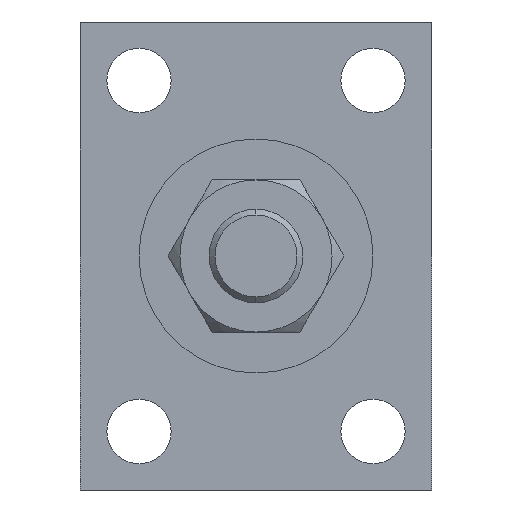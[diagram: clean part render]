
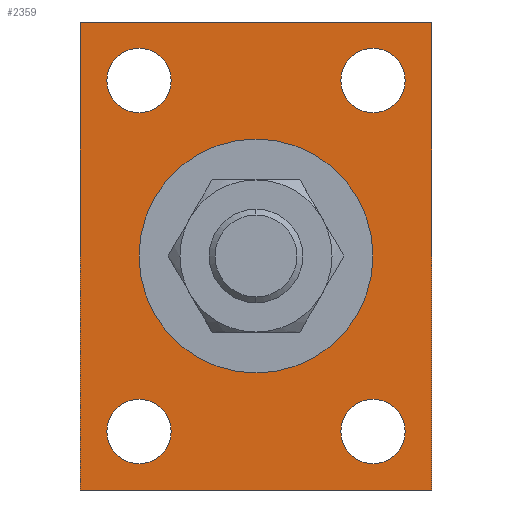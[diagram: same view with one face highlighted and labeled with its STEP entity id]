
A CAD part, left-side view. The second image highlights one B-rep face of the part: STEP entity #2359.
In plain terms, the highlighted planar face has unit normal (-1, 0, 0).
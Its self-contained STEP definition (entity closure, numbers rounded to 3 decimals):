
#27 = EDGE_CURVE ( 'NONE', #1225, #1220, #2355, .T. ) ;
#30 = VERTEX_POINT ( 'NONE', #1899 ) ;
#33 = CARTESIAN_POINT ( 'NONE',  ( -25., -15., 20. ) ) ;
#39 = VERTEX_POINT ( 'NONE', #1048 ) ;
#124 = CARTESIAN_POINT ( 'NONE',  ( -25., -15., -20. ) ) ;
#127 = VERTEX_POINT ( 'NONE', #33 ) ;
#141 = FACE_OUTER_BOUND ( 'NONE', #746, .T. ) ;
#142 = EDGE_LOOP ( 'NONE', ( #320, #871 ) ) ;
#167 = VECTOR ( 'NONE', #2615, 1000. ) ;
#204 = DIRECTION ( 'NONE',  ( 0., 0., -1. ) ) ;
#208 = EDGE_LOOP ( 'NONE', ( #272, #2180 ) ) ;
#225 = PLANE ( 'NONE',  #915 ) ;
#266 = EDGE_LOOP ( 'NONE', ( #3006, #1183 ) ) ;
#272 = ORIENTED_EDGE ( 'NONE', *, *, #1321, .T. ) ;
#284 = CARTESIAN_POINT ( 'NONE',  ( -25., 15., 20. ) ) ;
#293 = CIRCLE ( 'NONE', #1777, 10. ) ;
#306 = CARTESIAN_POINT ( 'NONE',  ( -25., -10., -15. ) ) ;
#315 = AXIS2_PLACEMENT_3D ( 'NONE', #2996, #1286, #1072 ) ;
#320 = ORIENTED_EDGE ( 'NONE', *, *, #2111, .F. ) ;
#343 = CARTESIAN_POINT ( 'NONE',  ( -25., 10., 17.75 ) ) ;
#347 = DIRECTION ( 'NONE',  ( -1., 0., 0. ) ) ;
#359 = AXIS2_PLACEMENT_3D ( 'NONE', #2248, #891, #3023 ) ;
#372 = VERTEX_POINT ( 'NONE', #343 ) ;
#389 = CARTESIAN_POINT ( 'NONE',  ( -25., -10., 15. ) ) ;
#456 = DIRECTION ( 'NONE',  ( 0., 0., 1. ) ) ;
#457 = DIRECTION ( 'NONE',  ( -1., 0., 0. ) ) ;
#463 = ORIENTED_EDGE ( 'NONE', *, *, #2032, .F. ) ;
#464 = ORIENTED_EDGE ( 'NONE', *, *, #27, .F. ) ;
#509 = ORIENTED_EDGE ( 'NONE', *, *, #1762, .F. ) ;
#514 = AXIS2_PLACEMENT_3D ( 'NONE', #2735, #1281, #456 ) ;
#547 = CARTESIAN_POINT ( 'NONE',  ( -25., -10., -17.75 ) ) ;
#594 = EDGE_CURVE ( 'NONE', #1068, #2512, #853, .T. ) ;
#632 = CIRCLE ( 'NONE', #1949, 2.75 ) ;
#663 = DIRECTION ( 'NONE',  ( 0., 0., 1. ) ) ;
#669 = ORIENTED_EDGE ( 'NONE', *, *, #2713, .F. ) ;
#704 = DIRECTION ( 'NONE',  ( 0., 0., 1. ) ) ;
#725 = EDGE_LOOP ( 'NONE', ( #1300, #463 ) ) ;
#745 = EDGE_CURVE ( 'NONE', #2512, #30, #1660, .T. ) ;
#746 = EDGE_LOOP ( 'NONE', ( #2237, #2231, #2594, #509 ) ) ;
#761 = EDGE_CURVE ( 'NONE', #372, #2370, #2562, .T. ) ;
#763 = FACE_BOUND ( 'NONE', #208, .T. ) ;
#778 = DIRECTION ( 'NONE',  ( -1., 0., 0. ) ) ;
#787 = CARTESIAN_POINT ( 'NONE',  ( -25., -15., -20. ) ) ;
#790 = VERTEX_POINT ( 'NONE', #547 ) ;
#803 = DIRECTION ( 'NONE',  ( 0., 0., 1. ) ) ;
#806 = VECTOR ( 'NONE', #2796, 1000. ) ;
#853 = LINE ( 'NONE', #124, #1948 ) ;
#871 = ORIENTED_EDGE ( 'NONE', *, *, #2832, .F. ) ;
#891 = DIRECTION ( 'NONE',  ( -1., 0., 0. ) ) ;
#896 = VERTEX_POINT ( 'NONE', #1269 ) ;
#915 = AXIS2_PLACEMENT_3D ( 'NONE', #2797, #1138, #1504 ) ;
#951 = EDGE_CURVE ( 'NONE', #1462, #39, #632, .T. ) ;
#996 = DIRECTION ( 'NONE',  ( 0., 0., 1. ) ) ;
#1002 = EDGE_CURVE ( 'NONE', #39, #1462, #1426, .T. ) ;
#1025 = CARTESIAN_POINT ( 'NONE',  ( -25., -10., 17.75 ) ) ;
#1048 = CARTESIAN_POINT ( 'NONE',  ( -25., -10., 12.25 ) ) ;
#1064 = VECTOR ( 'NONE', #204, 1000. ) ;
#1068 = VERTEX_POINT ( 'NONE', #787 ) ;
#1072 = DIRECTION ( 'NONE',  ( 0., 0., 1. ) ) ;
#1077 = CARTESIAN_POINT ( 'NONE',  ( -25., -15., 20. ) ) ;
#1128 = DIRECTION ( 'NONE',  ( 0., 1., 0. ) ) ;
#1138 = DIRECTION ( 'NONE',  ( -1., 0., 0. ) ) ;
#1183 = ORIENTED_EDGE ( 'NONE', *, *, #1002, .F. ) ;
#1185 = CARTESIAN_POINT ( 'NONE',  ( -25., 0., 0. ) ) ;
#1190 = CIRCLE ( 'NONE', #1715, 2.75 ) ;
#1220 = VERTEX_POINT ( 'NONE', #2025 ) ;
#1225 = VERTEX_POINT ( 'NONE', #1354 ) ;
#1269 = CARTESIAN_POINT ( 'NONE',  ( -25., -10., -12.25 ) ) ;
#1281 = DIRECTION ( 'NONE',  ( -1., 0., 0. ) ) ;
#1286 = DIRECTION ( 'NONE',  ( 1., 0., 0. ) ) ;
#1292 = FACE_BOUND ( 'NONE', #1751, .T. ) ;
#1300 = ORIENTED_EDGE ( 'NONE', *, *, #761, .F. ) ;
#1321 = EDGE_CURVE ( 'NONE', #2468, #2217, #293, .T. ) ;
#1327 = DIRECTION ( 'NONE',  ( 0., 0., 1. ) ) ;
#1354 = CARTESIAN_POINT ( 'NONE',  ( -25., 10., -17.75 ) ) ;
#1408 = DIRECTION ( 'NONE',  ( 1., 0., 0. ) ) ;
#1416 = CARTESIAN_POINT ( 'NONE',  ( -25., 15., -20. ) ) ;
#1426 = CIRCLE ( 'NONE', #2556, 2.75 ) ;
#1462 = VERTEX_POINT ( 'NONE', #1025 ) ;
#1504 = DIRECTION ( 'NONE',  ( 0., 0., 1. ) ) ;
#1513 = CARTESIAN_POINT ( 'NONE',  ( -25., 0., 10. ) ) ;
#1660 = LINE ( 'NONE', #284, #167 ) ;
#1711 = DIRECTION ( 'NONE',  ( 0., 0., 1. ) ) ;
#1715 = AXIS2_PLACEMENT_3D ( 'NONE', #306, #457, #803 ) ;
#1736 = FACE_BOUND ( 'NONE', #142, .T. ) ;
#1751 = EDGE_LOOP ( 'NONE', ( #669, #464 ) ) ;
#1762 = EDGE_CURVE ( 'NONE', #127, #1068, #2821, .T. ) ;
#1777 = AXIS2_PLACEMENT_3D ( 'NONE', #1185, #1408, #663 ) ;
#1812 = CIRCLE ( 'NONE', #1904, 2.75 ) ;
#1859 = DIRECTION ( 'NONE',  ( 0., 0., 1. ) ) ;
#1897 = CARTESIAN_POINT ( 'NONE',  ( -25., -15., 20. ) ) ;
#1899 = CARTESIAN_POINT ( 'NONE',  ( -25., 15., 20. ) ) ;
#1904 = AXIS2_PLACEMENT_3D ( 'NONE', #2390, #2624, #1327 ) ;
#1942 = CARTESIAN_POINT ( 'NONE',  ( -25., 10., -15. ) ) ;
#1948 = VECTOR ( 'NONE', #1128, 1000. ) ;
#1949 = AXIS2_PLACEMENT_3D ( 'NONE', #389, #778, #1711 ) ;
#2025 = CARTESIAN_POINT ( 'NONE',  ( -25., 10., -12.25 ) ) ;
#2032 = EDGE_CURVE ( 'NONE', #2370, #372, #2728, .T. ) ;
#2111 = EDGE_CURVE ( 'NONE', #896, #790, #1190, .T. ) ;
#2112 = CARTESIAN_POINT ( 'NONE',  ( -25., 10., -15. ) ) ;
#2120 = FACE_BOUND ( 'NONE', #725, .T. ) ;
#2180 = ORIENTED_EDGE ( 'NONE', *, *, #2241, .T. ) ;
#2202 = AXIS2_PLACEMENT_3D ( 'NONE', #2112, #2353, #704 ) ;
#2208 = CARTESIAN_POINT ( 'NONE',  ( -25., -10., 15. ) ) ;
#2217 = VERTEX_POINT ( 'NONE', #2230 ) ;
#2230 = CARTESIAN_POINT ( 'NONE',  ( -25., 0., -10. ) ) ;
#2231 = ORIENTED_EDGE ( 'NONE', *, *, #745, .F. ) ;
#2236 = CARTESIAN_POINT ( 'NONE',  ( -25., 10., 12.25 ) ) ;
#2237 = ORIENTED_EDGE ( 'NONE', *, *, #2346, .F. ) ;
#2241 = EDGE_CURVE ( 'NONE', #2217, #2468, #2376, .T. ) ;
#2248 = CARTESIAN_POINT ( 'NONE',  ( -25., 10., 15. ) ) ;
#2281 = FACE_BOUND ( 'NONE', #266, .T. ) ;
#2331 = CIRCLE ( 'NONE', #2202, 2.75 ) ;
#2346 = EDGE_CURVE ( 'NONE', #30, #127, #2409, .T. ) ;
#2353 = DIRECTION ( 'NONE',  ( -1., 0., 0. ) ) ;
#2355 = CIRCLE ( 'NONE', #2707, 2.75 ) ;
#2359 = ADVANCED_FACE ( 'NONE', ( #1292, #2120, #2281, #1736, #141, #763 ), #225, .T. ) ;
#2370 = VERTEX_POINT ( 'NONE', #2236 ) ;
#2376 = CIRCLE ( 'NONE', #315, 10. ) ;
#2390 = CARTESIAN_POINT ( 'NONE',  ( -25., -10., -15. ) ) ;
#2409 = LINE ( 'NONE', #1077, #806 ) ;
#2468 = VERTEX_POINT ( 'NONE', #1513 ) ;
#2512 = VERTEX_POINT ( 'NONE', #1416 ) ;
#2556 = AXIS2_PLACEMENT_3D ( 'NONE', #2208, #347, #1859 ) ;
#2562 = CIRCLE ( 'NONE', #359, 2.75 ) ;
#2594 = ORIENTED_EDGE ( 'NONE', *, *, #594, .F. ) ;
#2615 = DIRECTION ( 'NONE',  ( 0., 0., 1. ) ) ;
#2624 = DIRECTION ( 'NONE',  ( -1., 0., 0. ) ) ;
#2707 = AXIS2_PLACEMENT_3D ( 'NONE', #1942, #2927, #996 ) ;
#2713 = EDGE_CURVE ( 'NONE', #1220, #1225, #2331, .T. ) ;
#2728 = CIRCLE ( 'NONE', #514, 2.75 ) ;
#2735 = CARTESIAN_POINT ( 'NONE',  ( -25., 10., 15. ) ) ;
#2796 = DIRECTION ( 'NONE',  ( 0., -1., 0. ) ) ;
#2797 = CARTESIAN_POINT ( 'NONE',  ( -25., 0., 0. ) ) ;
#2821 = LINE ( 'NONE', #1897, #1064 ) ;
#2832 = EDGE_CURVE ( 'NONE', #790, #896, #1812, .T. ) ;
#2927 = DIRECTION ( 'NONE',  ( -1., 0., 0. ) ) ;
#2996 = CARTESIAN_POINT ( 'NONE',  ( -25., 0., 0. ) ) ;
#3006 = ORIENTED_EDGE ( 'NONE', *, *, #951, .F. ) ;
#3023 = DIRECTION ( 'NONE',  ( 0., 0., 1. ) ) ;
